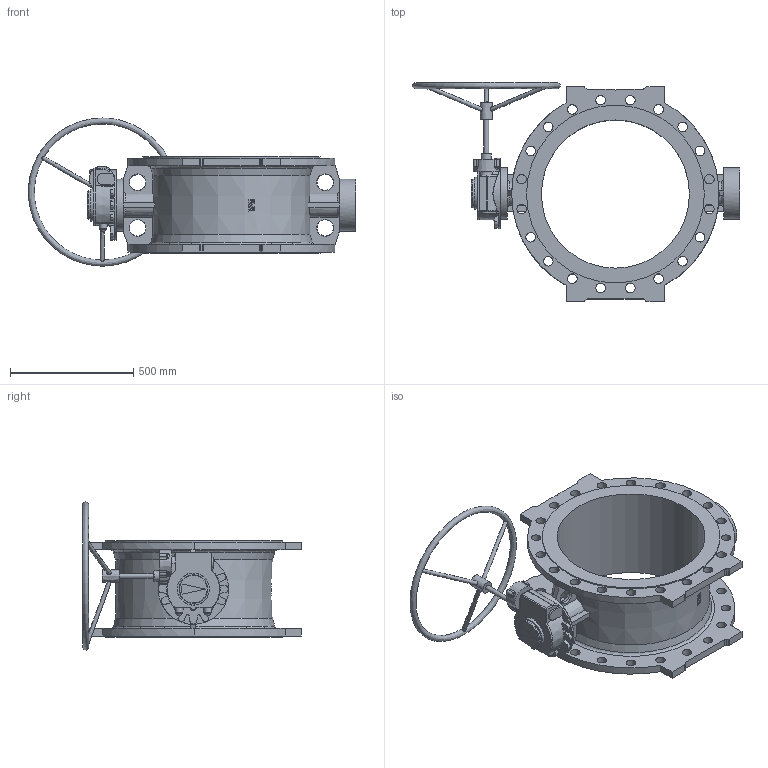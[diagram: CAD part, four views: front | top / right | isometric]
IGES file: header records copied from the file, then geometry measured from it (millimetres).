
Start section: SolidWorks IGES file using analytic representation for surfaces
Global section: file name: \\avksan2\techshare\PBM outline export from Enovia\O_756_1_DN600_1XX00_AA1_igs.igs; native system: SolidWorks 2012; preprocessor: SolidWorks 2012; author: pbm; date: 160304.125613; units: millimetre
Bounding box: 1325.32 x 887 x 599.77 mm (x, y, z)
Surface area: 3392327.8 mm2 (no closed solid volume)
Topology: 0 solids, 0 shells, 513 faces, 2952 edges, 2817 vertices
Faces by surface type: bspline 312, revolution 201
